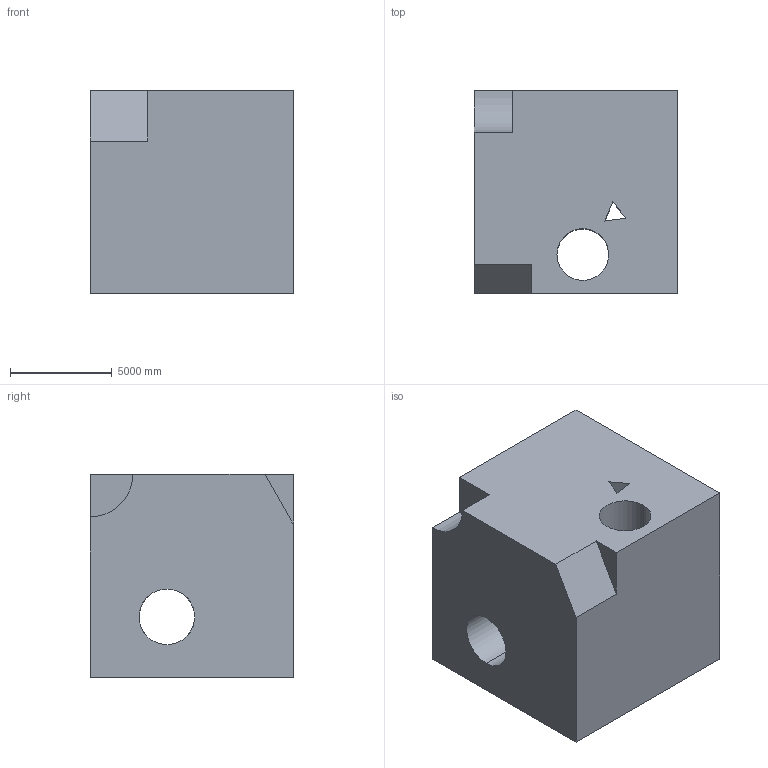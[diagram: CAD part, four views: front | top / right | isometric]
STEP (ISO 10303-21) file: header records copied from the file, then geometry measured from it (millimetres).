
FILE_DESCRIPTION (( 'STEP AP203' ), '1' );
FILE_NAME ('676.STEP', '2022-07-29T12:27:39', ( 'user' ), ( '' ), 'SwSTEP 2.0', 'SolidWorks 2021', '' );
FILE_SCHEMA (( 'CONFIG_CONTROL_DESIGN' ));
Length unit declared in the file: centimetre
Products named in the file (1): 676
Bounding box: 10000 x 10000 x 10000 mm (x, y, z)
Volume: 843950487405.1 mm3; surface area: 823693626.1 mm2
Topology: 1 solids, 1 shells, 25 faces, 66 edges, 44 vertices
Faces by surface type: plane 18, cylinder 7
Entity records: 865 total; most frequent: CARTESIAN_POINT 136, DIRECTION 134, ORIENTED_EDGE 132, EDGE_CURVE 66, VECTOR 50, LINE 50, VERTEX_POINT 44, AXIS2_PLACEMENT_3D 42
